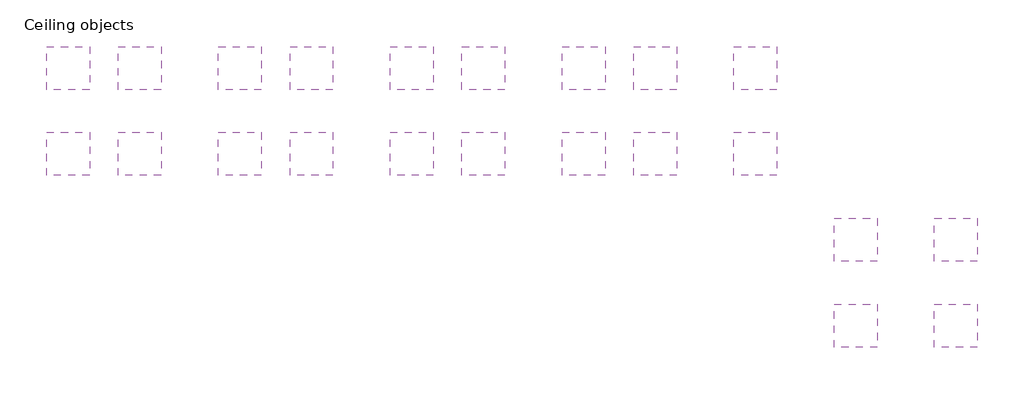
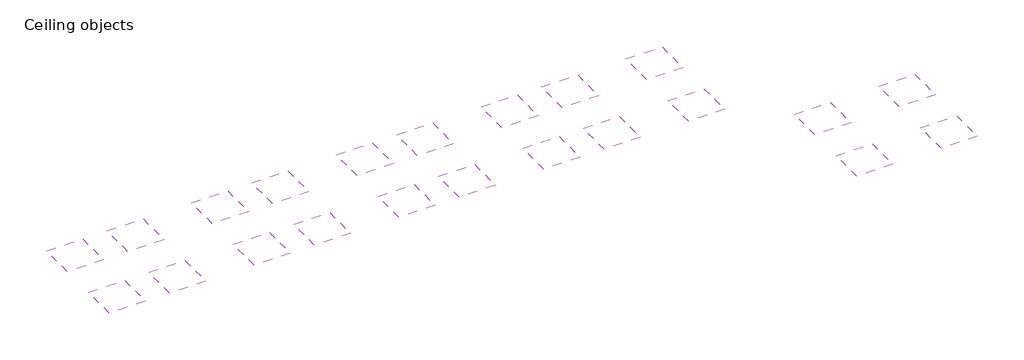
# One storey: 22 coverings.
"""IFC4 building model written with IfcOpenShell, lengths in millimetres."""

from ifc_helpers import new_model, si_unit, frame, origin, place, context, project, spatial, polyline, outline, extrude, element, save

model = new_model("IFC4")

# Units and contexts
model_context = context("Model", 3, world=origin())
ifc_project = project(units=[si_unit("LENGTHUNIT", "METRE", prefix="MILLI")], contexts=[model_context])

# Site, building, storey
site = spatial("IfcSite", under=ifc_project)
building = spatial("IfcBuilding", under=site)
storey = spatial("IfcBuildingStorey", under=building, Name="Ceiling objects", Elevation=0.0)

# Coverings
placement = place(None, origin())
element("IfcCovering", 1, ObjectType="Knauf Danoline Plaza Globe 600x600x12.5_S15_A", at=placement, inside=storey, context=model_context, shape_type="SweptSolid", body=[
    extrude(outline(polyline([(-4783.0103193, 8117.0281757), (-4783.0103193, 5117.0281757), (-7783.0103193, 5117.0281757), (-7783.0103193, 8117.0281757), (-4783.0103193, 8117.0281757)])), frame((0.0, 0.0, 2600.0), z_axis=(0.0, 0.0, 1.0), x_axis=(1.0, 0.0, 0.0)), (0.0, 0.0, 1.0), 38.0000012),
])
element("IfcCovering", 2, ObjectType="Knauf Danoline Plaza Globe 600x600x12.5_S24_A", at=placement, inside=storey, context=model_context, shape_type="SweptSolid", body=[
    extrude(outline(polyline([(-4783.0103193, 2117.0279837), (-4783.0103193, -882.9720163), (-7783.0103193, -882.9720163), (-7783.0103193, 2117.0279837), (-4783.0103193, 2117.0279837)])), frame((0.0, 0.0, 2600.0), z_axis=(0.0, 0.0, 1.0), x_axis=(1.0, 0.0, 0.0)), (0.0, 0.0, 1.0), 38.0000012),
])
element("IfcCovering", 3, ObjectType="Knauf Danoline Plaza Globe 625x625x12.5_S15_A", at=placement, inside=storey, context=model_context, shape_type="SweptSolid", body=[
    extrude(outline(polyline([(216.9898407, 8117.0281757), (216.9898407, 5117.0281757), (-2783.0101593, 5117.0281757), (-2783.0101593, 8117.0281757), (216.9898407, 8117.0281757)])), frame((0.0, 0.0, 2600.0), z_axis=(0.0, 0.0, 1.0), x_axis=(1.0, 0.0, 0.0)), (0.0, 0.0, 1.0), 38.0000012),
])
element("IfcCovering", 4, ObjectType="Knauf Danoline Plaza Globe 625x625x12.5_S24_A", at=placement, inside=storey, context=model_context, shape_type="SweptSolid", body=[
    extrude(outline(polyline([(216.9898407, 2117.0279837), (216.9898407, -882.9720163), (-2783.0101593, -882.9720163), (-2783.0101593, 2117.0279837), (216.9898407, 2117.0279837)])), frame((0.0, 0.0, 2600.0), z_axis=(0.0, 0.0, 1.0), x_axis=(1.0, 0.0, 0.0)), (0.0, 0.0, 1.0), 38.0000012),
])
element("IfcCovering", 5, ObjectType="Knauf Danoline Plaza Micro 600x600x9.5_S15_A", at=placement, inside=storey, context=model_context, shape_type="SweptSolid", body=[
    extrude(outline(polyline([(7216.9900647, 8117.0281757), (7216.9900647, 5117.0281757), (4216.9900647, 5117.0281757), (4216.9900647, 8117.0281757), (7216.9900647, 8117.0281757)])), frame((0.0, 0.0, 2600.0), z_axis=(0.0, 0.0, 1.0), x_axis=(1.0, 0.0, 0.0)), (0.0, 0.0, 1.0), 38.0000012),
])
element("IfcCovering", 6, ObjectType="Knauf Danoline Plaza Micro 600x600x9.5_S24_A", at=placement, inside=storey, context=model_context, shape_type="SweptSolid", body=[
    extrude(outline(polyline([(7216.9900647, 2117.0279837), (7216.9900647, -882.9720163), (4216.9900647, -882.9720163), (4216.9900647, 2117.0279837), (7216.9900647, 2117.0279837)])), frame((0.0, 0.0, 2600.0), z_axis=(0.0, 0.0, 1.0), x_axis=(1.0, 0.0, 0.0)), (0.0, 0.0, 1.0), 38.0000012),
])
element("IfcCovering", 7, ObjectType="Knauf Danoline Plaza Micro 625x625x12.5_S15_A", at=placement, inside=storey, context=model_context, shape_type="SweptSolid", body=[
    extrude(outline(polyline([(12216.9902247, 8117.0281757), (12216.9902247, 5117.0281757), (9216.9902247, 5117.0281757), (9216.9902247, 8117.0281757), (12216.9902247, 8117.0281757)])), frame((0.0, 0.0, 2600.0), z_axis=(0.0, 0.0, 1.0), x_axis=(1.0, 0.0, 0.0)), (0.0, 0.0, 1.0), 38.0000012),
])
element("IfcCovering", 8, ObjectType="Knauf Danoline Plaza Micro 625x625x12.5_S24_A", at=placement, inside=storey, context=model_context, shape_type="SweptSolid", body=[
    extrude(outline(polyline([(12216.9902247, 2117.0279837), (12216.9902247, -882.9720163), (9216.9902247, -882.9720163), (9216.9902247, 2117.0279837), (12216.9902247, 2117.0279837)])), frame((0.0, 0.0, 2600.0), z_axis=(0.0, 0.0, 1.0), x_axis=(1.0, 0.0, 0.0)), (0.0, 0.0, 1.0), 38.0000012),
])
element("IfcCovering", 9, ObjectType="Knauf Danoline Plaza Regular 600x600x9.5_S15_A", at=placement, inside=storey, context=model_context, shape_type="SweptSolid", body=[
    extrude(outline(polyline([(19216.9904487, 8117.0281757), (19216.9904487, 5117.0281757), (16216.9904487, 5117.0281757), (16216.9904487, 8117.0281757), (19216.9904487, 8117.0281757)])), frame((0.0, 0.0, 2600.0), z_axis=(0.0, 0.0, 1.0), x_axis=(1.0, 0.0, 0.0)), (0.0, 0.0, 1.0), 38.0000012),
])
element("IfcCovering", 10, ObjectType="Knauf Danoline Plaza Regular 600x600x9.5_S24_A", at=placement, inside=storey, context=model_context, shape_type="SweptSolid", body=[
    extrude(outline(polyline([(19216.9904487, 2117.0279837), (19216.9904487, -882.9720163), (16216.9904487, -882.9720163), (16216.9904487, 2117.0279837), (19216.9904487, 2117.0279837)])), frame((0.0, 0.0, 2600.0), z_axis=(0.0, 0.0, 1.0), x_axis=(1.0, 0.0, 0.0)), (0.0, 0.0, 1.0), 38.0000012),
])
element("IfcCovering", 11, ObjectType="Knauf Danoline Plaza Regular 625x625x15.5_S15_A", at=placement, inside=storey, context=model_context, shape_type="SweptSolid", body=[
    extrude(outline(polyline([(24216.9906087, 8117.0281757), (24216.9906087, 5117.0281757), (21216.9906087, 5117.0281757), (21216.9906087, 8117.0281757), (24216.9906087, 8117.0281757)])), frame((0.0, 0.0, 2600.0), z_axis=(0.0, 0.0, 1.0), x_axis=(1.0, 0.0, 0.0)), (0.0, 0.0, 1.0), 38.0000012),
])
element("IfcCovering", 12, ObjectType="Knauf Danoline Plaza Regular 625x625x15.5_S24_A", at=placement, inside=storey, context=model_context, shape_type="SweptSolid", body=[
    extrude(outline(polyline([(24216.9906087, 2117.0279837), (24216.9906087, -882.9720163), (21216.9906087, -882.9720163), (21216.9906087, 2117.0279837), (24216.9906087, 2117.0279837)])), frame((0.0, 0.0, 2600.0), z_axis=(0.0, 0.0, 1.0), x_axis=(1.0, 0.0, 0.0)), (0.0, 0.0, 1.0), 38.0000012),
])
element("IfcCovering", 13, ObjectType="Knauf Danoline Plaza Quadril 600x600x9.5_S15_A", at=placement, inside=storey, context=model_context, shape_type="SweptSolid", body=[
    extrude(outline(polyline([(31216.9908327, 8117.0281757), (31216.9908327, 5117.0281757), (28216.9908327, 5117.0281757), (28216.9908327, 8117.0281757), (31216.9908327, 8117.0281757)])), frame((0.0, 0.0, 2600.0), z_axis=(0.0, 0.0, 1.0), x_axis=(1.0, 0.0, 0.0)), (0.0, 0.0, 1.0), 38.0000012),
])
element("IfcCovering", 14, ObjectType="Knauf Danoline Plaza Quadril 600x600x9.5_S24_A", at=placement, inside=storey, context=model_context, shape_type="SweptSolid", body=[
    extrude(outline(polyline([(31216.9908327, 2117.0279837), (31216.9908327, -882.9720163), (28216.9908327, -882.9720163), (28216.9908327, 2117.0279837), (31216.9908327, 2117.0279837)])), frame((0.0, 0.0, 2600.0), z_axis=(0.0, 0.0, 1.0), x_axis=(1.0, 0.0, 0.0)), (0.0, 0.0, 1.0), 38.0000012),
])
element("IfcCovering", 15, ObjectType="Knauf Danoline Plaza Quadril 625x625x12.5_S15_A", at=placement, inside=storey, context=model_context, shape_type="SweptSolid", body=[
    extrude(outline(polyline([(36216.9909927, 8117.0281757), (36216.9909927, 5117.0281757), (33216.9909927, 5117.0281757), (33216.9909927, 8117.0281757), (36216.9909927, 8117.0281757)])), frame((0.0, 0.0, 2600.0), z_axis=(0.0, 0.0, 1.0), x_axis=(1.0, 0.0, 0.0)), (0.0, 0.0, 1.0), 38.0000012),
])
element("IfcCovering", 16, ObjectType="Knauf Danoline Plaza Quadril 625x625x12.5_S24_A", at=placement, inside=storey, context=model_context, shape_type="SweptSolid", body=[
    extrude(outline(polyline([(36216.9909927, 2117.0279837), (36216.9909927, -882.9720163), (33216.9909927, -882.9720163), (33216.9909927, 2117.0279837), (36216.9909927, 2117.0279837)])), frame((0.0, 0.0, 2600.0), z_axis=(0.0, 0.0, 1.0), x_axis=(1.0, 0.0, 0.0)), (0.0, 0.0, 1.0), 38.0000012),
])
element("IfcCovering", 17, ObjectType="Knauf Danoline Plaza Tangent 600x600x12.5_S15_A", at=placement, inside=storey, context=model_context, shape_type="SweptSolid", body=[
    extrude(outline(polyline([(43216.9912167, 8117.0281757), (43216.9912167, 5117.0281757), (40216.9912167, 5117.0281757), (40216.9912167, 8117.0281757), (43216.9912167, 8117.0281757)])), frame((0.0, 0.0, 2600.0), z_axis=(0.0, 0.0, 1.0), x_axis=(1.0, 0.0, 0.0)), (0.0, 0.0, 1.0), 38.0000012),
])
element("IfcCovering", 18, ObjectType="Knauf Danoline Plaza Tangent 600x600x12.5_S24_A", at=placement, inside=storey, context=model_context, shape_type="SweptSolid", body=[
    extrude(outline(polyline([(43216.9912167, 2117.0279837), (43216.9912167, -882.9720163), (40216.9912167, -882.9720163), (40216.9912167, 2117.0279837), (43216.9912167, 2117.0279837)])), frame((0.0, 0.0, 2600.0), z_axis=(0.0, 0.0, 1.0), x_axis=(1.0, 0.0, 0.0)), (0.0, 0.0, 1.0), 38.0000012),
])
element("IfcCovering", 19, ObjectType="Knauf Danoline Plaza Unity 3 600x600x12.5_S15_A+", at=placement, inside=storey, context=model_context, shape_type="SweptSolid", body=[
    extrude(outline(polyline([(50216.9914407, -3882.9722083), (50216.9914407, -6882.9722083), (47216.9914407, -6882.9722083), (47216.9914407, -3882.9722083), (50216.9914407, -3882.9722083)])), frame((0.0, 0.0, 2600.0), z_axis=(0.0, 0.0, 1.0), x_axis=(1.0, 0.0, 0.0)), (0.0, 0.0, 1.0), 38.0000012),
])
element("IfcCovering", 20, ObjectType="Knauf Danoline Plaza Unity 3 600x600x12.5_S24_A+", at=placement, inside=storey, context=model_context, shape_type="SweptSolid", body=[
    extrude(outline(polyline([(50216.9914407, -9882.9724003), (50216.9914407, -12882.9724003), (47216.9914407, -12882.9724003), (47216.9914407, -9882.9724003), (50216.9914407, -9882.9724003)])), frame((0.0, 0.0, 2600.0), z_axis=(0.0, 0.0, 1.0), x_axis=(1.0, 0.0, 0.0)), (0.0, 0.0, 1.0), 38.0000012),
])
element("IfcCovering", 21, ObjectType="Knauf Danoline Plaza Unity 8-15-20 600x600x12.5_S15_A+", at=placement, inside=storey, context=model_context, shape_type="SweptSolid", body=[
    extrude(outline(polyline([(57216.9916647, -3882.9722083), (57216.9916647, -6882.9722083), (54216.9916647, -6882.9722083), (54216.9916647, -3882.9722083), (57216.9916647, -3882.9722083)])), frame((0.0, 0.0, 2600.0), z_axis=(0.0, 0.0, 1.0), x_axis=(1.0, 0.0, 0.0)), (0.0, 0.0, 1.0), 38.0000012),
])
element("IfcCovering", 22, ObjectType="Knauf Danoline Plaza Unity 8-15-20 600x600x12.5_S24_A+", at=placement, inside=storey, context=model_context, shape_type="SweptSolid", body=[
    extrude(outline(polyline([(57216.9916647, -9882.9724003), (57216.9916647, -12882.9724003), (54216.9916647, -12882.9724003), (54216.9916647, -9882.9724003), (57216.9916647, -9882.9724003)])), frame((0.0, 0.0, 2600.0), z_axis=(0.0, 0.0, 1.0), x_axis=(1.0, 0.0, 0.0)), (0.0, 0.0, 1.0), 38.0000012),
])

save(model, "model.ifc")
